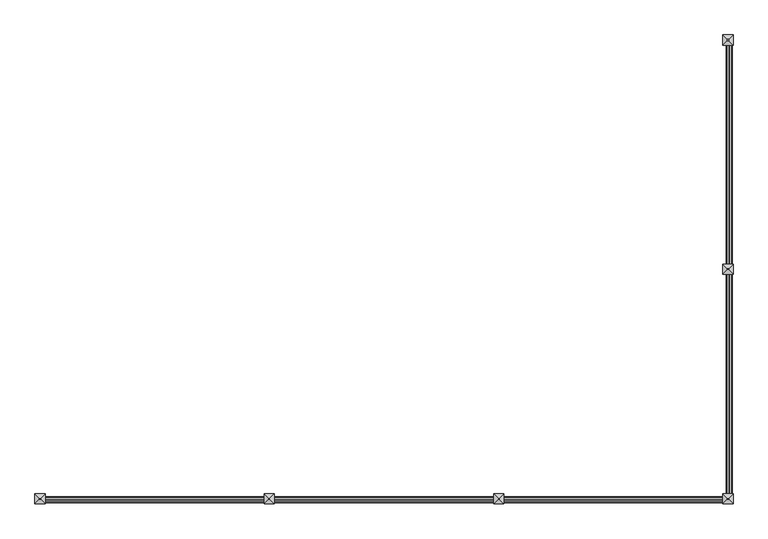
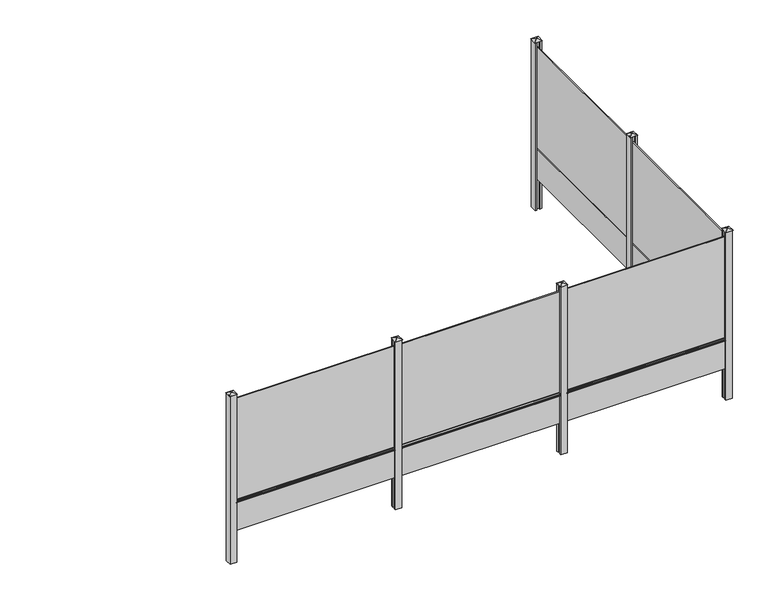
"""IFC4 building model written with IfcOpenShell, lengths in millimetres: railing geometry, Mehat - Railing - Plaque de Soubassement - Classique pour clôture rigide - 251x50x4.3/3.8 cm."""

from ifc_helpers import new_model, si_unit, frame, origin, place, context, project, spatial, polyline, circle_curve, outline, extrude, faceted_brep, source, transform, mapped, element, save
from ifc_brep_helpers import plane_surface, cylinder_surface, advanced_brep


def railing_a1924e57(model_context):
    return source(origin(), model_context, "Body", "SolidModel", [
        extrude(outline(polyline([(193896.2516516, -10817.4943936), (193879.2516516, -10817.4943936), (193879.2516516, -8307.4943936), (193896.2516516, -8307.4943936), (193896.2516516, -10817.4943936)])), frame((0.0, 0.0, 500.0), z_axis=(0.0, 0.0, 1.0), x_axis=(1.0, 0.0, 0.0)), (0.0, 0.0, 1.0), 1650.0),
        advanced_brep(
        [(193906.7516516, -8307.4943936, 0.0), (193868.7516516, -8307.4943936, 0.0), (193866.2516516, -8307.4943936, 500.0), (193909.0334698, -8307.4943936, 500.0), (193906.7516516, -10817.4943936, 0.0), (193909.0334698, -10817.4943936, 500.0), (193866.2516516, -10817.4943936, 500.0), (193868.7516516, -10817.4943936, 0.0), (193909.0334698, -10792.4943936, 500.0), (193909.0334698, -8332.4943936, 500.0), (193908.8503139, -8332.4943936, 459.8662207), (193908.8503139, -10792.4943936, 459.8662207), (193930.8327905, -8332.4943936, 467.1937129), (193930.8327905, -10792.4943936, 467.1937129), (193934.2516516, -8332.4943936, 471.9371294), (193934.2516516, -10792.4943936, 471.9371294), (193934.2516516, -8332.4943936, 488.0628706), (193934.2516516, -10792.4943936, 488.0628706), (193930.8327905, -8332.4943936, 492.8062871), (193930.8327905, -10792.4943936, 492.8062871)],
        [
            (0, 1),
            (1, 2),
            (2, 3),
            (3, 0),
            (4, 5),
            (5, 6),
            (6, 7),
            (7, 4),
            (2, 6),
            (5, 8),
            (8, 9),
            (9, 3),
            (1, 7),
            (0, 4),
            (9, 10),
            (10, 11),
            (11, 8),
            (10, 12),
            (12, 13),
            (13, 11),
            (12, 14, circle_curve(frame((193929.2516516, -8332.4943936, 471.9371294), z_axis=(0.0, -1.0, 0.0), x_axis=(1.0, 0.0, 0.0)), 5.0)),
            (14, 15),
            (15, 13, circle_curve(frame((193929.2516516, -10792.4943936, 471.9371294), z_axis=(0.0, 1.0, 0.0), x_axis=(1.0, 0.0, 0.0)), 5.0)),
            (14, 16),
            (16, 17),
            (17, 15),
            (16, 18, circle_curve(frame((193929.2516516, -8332.4943936, 488.0628706), z_axis=(0.0, -1.0, 0.0), x_axis=(1.0, 0.0, 0.0)), 5.0)),
            (18, 19),
            (19, 17, circle_curve(frame((193929.2516516, -10792.4943936, 488.0628706), z_axis=(0.0, 1.0, 0.0), x_axis=(1.0, 0.0, 0.0)), 5.0)),
            (18, 9),
            (8, 19),
        ],
        [
            plane_surface(frame((193866.2516516, -8307.4943936, 500.0), z_axis=(0.0, 1.0, 0.0), x_axis=(-1.0, 0.0, 0.0))),
            plane_surface(frame((193866.2516516, -10817.4943936, 500.0), z_axis=(0.0, -1.0, 0.0), x_axis=(1.0, 0.0, 0.0))),
            plane_surface(frame((193909.0334698, -8307.4943936, 500.0), z_axis=(0.0, 0.0, 1.0), x_axis=(0.0, -1.0, 0.0))),
            plane_surface(frame((193866.2516516, -8307.4943936, 500.0), z_axis=(-0.9999875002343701, 0.0, -0.004999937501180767), x_axis=(0.0, -1.0, 0.0))),
            plane_surface(frame((193868.7516516, -8307.4943936, 0.0), z_axis=(0.0, 0.0, -1.0), x_axis=(0.0, -1.0, 0.0))),
            plane_surface(frame((193906.7516516, -8307.4943936, 0.0), z_axis=(0.9999895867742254, 0.0, -0.004563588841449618), x_axis=(0.0, -1.0, 0.0))),
            plane_surface(frame((193908.8503139, -8307.4943936, 459.8662207), z_axis=(0.31622776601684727, 0.0, -0.9486832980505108), x_axis=(0.0, -1.0, 0.0))),
            cylinder_surface(frame((193929.2516516, -10817.4943936, 471.9371294), z_axis=(0.0, 1.0, 0.0), x_axis=(1.0, 0.0, 0.0)), 5.0),
            plane_surface(frame((193934.2516516, -8307.4943936, 471.9371294), z_axis=(1.0, 0.0, 0.0), x_axis=(0.0, -1.0, 0.0))),
            cylinder_surface(frame((193929.2516516, -10817.4943936, 488.0628706), z_axis=(0.0, 1.0, 0.0), x_axis=(1.0, 0.0, 0.0)), 5.0),
            plane_surface(frame((193930.8327905, -8307.4943936, 492.8062871), z_axis=(0.3133749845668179, 0.0, 0.9496294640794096), x_axis=(0.0, -1.0, 0.0))),
            plane_surface(frame((193934.2516516, -10792.4943936, 471.9371294), z_axis=(0.0, -1.0, 0.0), x_axis=(0.0, 0.0, 1.0))),
            plane_surface(frame((193934.2516516, -8332.4943936, 471.9371294), z_axis=(0.0, 1.0, 0.0), x_axis=(0.0, 0.0, -1.0))),
        ],
        [
            (0, [[1, 2, 3, 4]]),
            (1, [[5, 6, 7, 8]]),
            (2, [[9, -6, 10, 11, 12, -3]]),
            (3, [[13, -7, -9, -2]]),
            (4, [[14, -8, -13, -1]]),
            (5, [[-4, -12, 15, 16, 17, -10, -5, -14]]),
            (6, [[-16, 18, 19, 20]]),
            (7, [[-19, 21, 22, 23]]),
            (8, [[-22, 24, 25, 26]]),
            (9, [[-25, 27, 28, 29]]),
            (10, [[-28, 30, -11, 31]]),
            (11, [[-20, -23, -26, -29, -31, -17]]),
            (12, [[-30, -27, -24, -21, -18, -15]]),
        ],
    ),
        extrude(outline(polyline([(193937.7516516, -10892.4943936), (193909.2516516, -10892.4943936), (193909.2516516, -10867.4943936), (193866.2516516, -10867.4943936), (193866.2516516, -10892.4943936), (193837.7516516, -10892.4943936), (193837.7516516, -10792.4943936), (193866.2516516, -10792.4943936), (193866.2516516, -10817.4943936), (193909.2516516, -10817.4943936), (193909.2516516, -10792.4943936), (193937.7516516, -10792.4943936), (193937.7516516, -10892.4943936)])), frame((0.0, 0.0, -500.0), z_axis=(0.0, 0.0, 1.0), x_axis=(1.0, 0.0, 0.0)), (0.0, 0.0, 1.0), 2750.0),
        faceted_brep([(193881.3471055, -10836.1443936, 2275.4), (193881.3471055, -10848.8443936, 2275.4), (193894.0471055, -10848.8443936, 2275.4), (193894.0471055, -10836.1443936, 2275.4), (193831.4016516, -10786.1443936, 2250.0), (193944.1016516, -10786.1443936, 2250.0), (193944.1016516, -10898.8443936, 2250.0), (193831.4016516, -10898.8443936, 2250.0)], [[[0, 1, 2, 3]], [[4, 5, 6, 7]], [[4, 0, 3, 5]], [[5, 3, 2, 6]], [[6, 2, 1, 7]], [[7, 1, 0, 4]]]),
        extrude(outline(polyline([(193896.2516516, -13377.4943936), (193879.2516516, -13377.4943936), (193879.2516516, -10867.4943936), (193896.2516516, -10867.4943936), (193896.2516516, -13377.4943936)])), frame((0.0, 0.0, 500.0), z_axis=(0.0, 0.0, 1.0), x_axis=(1.0, 0.0, 0.0)), (0.0, 0.0, 1.0), 1650.0),
        advanced_brep(
        [(193906.7516516, -10867.4943936, 0.0), (193868.7516516, -10867.4943936, 0.0), (193866.2516516, -10867.4943936, 500.0), (193909.0334698, -10867.4943936, 500.0), (193906.7516516, -13377.4943936, 0.0), (193909.0334698, -13377.4943936, 500.0), (193866.2516516, -13377.4943936, 500.0), (193868.7516516, -13377.4943936, 0.0), (193909.0334698, -13352.4943936, 500.0), (193909.0334698, -10892.4943936, 500.0), (193908.8503139, -10892.4943936, 459.8662207), (193908.8503139, -13352.4943936, 459.8662207), (193930.8327905, -10892.4943936, 467.1937129), (193930.8327905, -13352.4943936, 467.1937129), (193934.2516516, -10892.4943936, 471.9371294), (193934.2516516, -13352.4943936, 471.9371294), (193934.2516516, -10892.4943936, 488.0628706), (193934.2516516, -13352.4943936, 488.0628706), (193930.8327905, -10892.4943936, 492.8062871), (193930.8327905, -13352.4943936, 492.8062871)],
        [
            (0, 1),
            (1, 2),
            (2, 3),
            (3, 0),
            (4, 5),
            (5, 6),
            (6, 7),
            (7, 4),
            (2, 6),
            (5, 8),
            (8, 9),
            (9, 3),
            (1, 7),
            (0, 4),
            (9, 10),
            (10, 11),
            (11, 8),
            (10, 12),
            (12, 13),
            (13, 11),
            (12, 14, circle_curve(frame((193929.2516516, -10892.4943936, 471.9371294), z_axis=(0.0, -1.0, 0.0), x_axis=(1.0, 0.0, 0.0)), 5.0)),
            (14, 15),
            (15, 13, circle_curve(frame((193929.2516516, -13352.4943936, 471.9371294), z_axis=(0.0, 1.0, 0.0), x_axis=(1.0, 0.0, 0.0)), 5.0)),
            (14, 16),
            (16, 17),
            (17, 15),
            (16, 18, circle_curve(frame((193929.2516516, -10892.4943936, 488.0628706), z_axis=(0.0, -1.0, 0.0), x_axis=(1.0, 0.0, 0.0)), 5.0)),
            (18, 19),
            (19, 17, circle_curve(frame((193929.2516516, -13352.4943936, 488.0628706), z_axis=(0.0, 1.0, 0.0), x_axis=(1.0, 0.0, 0.0)), 5.0)),
            (18, 9),
            (8, 19),
        ],
        [
            plane_surface(frame((193866.2516516, -10867.4943936, 500.0), z_axis=(0.0, 1.0, 0.0), x_axis=(-1.0, 0.0, 0.0))),
            plane_surface(frame((193866.2516516, -13377.4943936, 500.0), z_axis=(0.0, -1.0, 0.0), x_axis=(1.0, 0.0, 0.0))),
            plane_surface(frame((193909.0334698, -10867.4943936, 500.0), z_axis=(0.0, 0.0, 1.0), x_axis=(0.0, -1.0, 0.0))),
            plane_surface(frame((193866.2516516, -10867.4943936, 500.0), z_axis=(-0.9999875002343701, 0.0, -0.004999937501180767), x_axis=(0.0, -1.0, 0.0))),
            plane_surface(frame((193868.7516516, -10867.4943936, 0.0), z_axis=(0.0, 0.0, -1.0), x_axis=(0.0, -1.0, 0.0))),
            plane_surface(frame((193906.7516516, -10867.4943936, 0.0), z_axis=(0.9999895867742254, 0.0, -0.004563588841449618), x_axis=(0.0, -1.0, 0.0))),
            plane_surface(frame((193908.8503139, -10867.4943936, 459.8662207), z_axis=(0.31622776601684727, 0.0, -0.9486832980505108), x_axis=(0.0, -1.0, 0.0))),
            cylinder_surface(frame((193929.2516516, -13377.4943936, 471.9371294), z_axis=(0.0, 1.0, 0.0), x_axis=(1.0, 0.0, 0.0)), 5.0),
            plane_surface(frame((193934.2516516, -10867.4943936, 471.9371294), z_axis=(1.0, 0.0, 0.0), x_axis=(0.0, -1.0, 0.0))),
            cylinder_surface(frame((193929.2516516, -13377.4943936, 488.0628706), z_axis=(0.0, 1.0, 0.0), x_axis=(1.0, 0.0, 0.0)), 5.0),
            plane_surface(frame((193930.8327905, -10867.4943936, 492.8062871), z_axis=(0.3133749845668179, 0.0, 0.9496294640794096), x_axis=(0.0, -1.0, 0.0))),
            plane_surface(frame((193934.2516516, -13352.4943936, 471.9371294), z_axis=(0.0, -1.0, 0.0), x_axis=(0.0, 0.0, 1.0))),
            plane_surface(frame((193934.2516516, -10892.4943936, 471.9371294), z_axis=(0.0, 1.0, 0.0), x_axis=(0.0, 0.0, -1.0))),
        ],
        [
            (0, [[1, 2, 3, 4]]),
            (1, [[5, 6, 7, 8]]),
            (2, [[9, -6, 10, 11, 12, -3]]),
            (3, [[13, -7, -9, -2]]),
            (4, [[14, -8, -13, -1]]),
            (5, [[-4, -12, 15, 16, 17, -10, -5, -14]]),
            (6, [[-16, 18, 19, 20]]),
            (7, [[-19, 21, 22, 23]]),
            (8, [[-22, 24, 25, 26]]),
            (9, [[-25, 27, 28, 29]]),
            (10, [[-28, 30, -11, 31]]),
            (11, [[-20, -23, -26, -29, -31, -17]]),
            (12, [[-30, -27, -24, -21, -18, -15]]),
        ],
    ),
        extrude(outline(polyline([(191352.7516516, -13410.9943936), (191352.7516516, -13393.9943936), (193862.7516516, -13393.9943936), (193862.7516516, -13410.9943936), (191352.7516516, -13410.9943936)])), frame((0.0, 0.0, 500.0), z_axis=(0.0, 0.0, 1.0), x_axis=(1.0, 0.0, 0.0)), (0.0, 0.0, 1.0), 1650.0),
        advanced_brep(
        [(193862.7516516, -13421.4943936, 0.0), (193862.7516516, -13383.4943936, 0.0), (193862.7516516, -13380.9943936, 500.0), (193862.7516516, -13423.7762118, 500.0), (191352.7516516, -13421.4943936, 0.0), (191352.7516516, -13423.7762118, 500.0), (191352.7516516, -13380.9943936, 500.0), (191352.7516516, -13383.4943936, 0.0), (191377.7516516, -13423.7762118, 500.0), (193837.7516516, -13423.7762118, 500.0), (193837.7516516, -13423.5930558, 459.8662207), (191377.7516516, -13423.5930558, 459.8662207), (193837.7516516, -13445.5755325, 467.1937129), (191377.7516516, -13445.5755325, 467.1937129), (193837.7516516, -13448.9943936, 471.9371294), (191377.7516516, -13448.9943936, 471.9371294), (193837.7516516, -13448.9943936, 488.0628706), (191377.7516516, -13448.9943936, 488.0628706), (193837.7516516, -13445.5755325, 492.8062871), (191377.7516516, -13445.5755325, 492.8062871)],
        [
            (0, 1),
            (1, 2),
            (2, 3),
            (3, 0),
            (4, 5),
            (5, 6),
            (6, 7),
            (7, 4),
            (2, 6),
            (5, 8),
            (8, 9),
            (9, 3),
            (1, 7),
            (0, 4),
            (9, 10),
            (10, 11),
            (11, 8),
            (10, 12),
            (12, 13),
            (13, 11),
            (12, 14, circle_curve(frame((193837.7516516, -13443.9943936, 471.9371294), z_axis=(-1.0, 0.0, 0.0), x_axis=(0.0, -1.0, 0.0)), 5.0)),
            (14, 15),
            (15, 13, circle_curve(frame((191377.7516516, -13443.9943936, 471.9371294), z_axis=(1.0, 0.0, 0.0), x_axis=(0.0, -1.0, 0.0)), 5.0)),
            (14, 16),
            (16, 17),
            (17, 15),
            (16, 18, circle_curve(frame((193837.7516516, -13443.9943936, 488.0628706), z_axis=(-1.0, 0.0, 0.0), x_axis=(0.0, -1.0, 0.0)), 5.0)),
            (18, 19),
            (19, 17, circle_curve(frame((191377.7516516, -13443.9943936, 488.0628706), z_axis=(1.0, 0.0, 0.0), x_axis=(0.0, -1.0, 0.0)), 5.0)),
            (18, 9),
            (8, 19),
        ],
        [
            plane_surface(frame((193862.7516516, -13380.9943936, 500.0), z_axis=(1.0, 0.0, 0.0), x_axis=(0.0, 1.0, 0.0))),
            plane_surface(frame((191352.7516516, -13380.9943936, 500.0), z_axis=(-1.0, 0.0, 0.0), x_axis=(0.0, -1.0, 0.0))),
            plane_surface(frame((193862.7516516, -13423.7762118, 500.0), z_axis=(0.0, 0.0, 1.0), x_axis=(-1.0, 0.0, 0.0))),
            plane_surface(frame((193862.7516516, -13380.9943936, 500.0), z_axis=(0.0, 0.9999875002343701, -0.004999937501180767), x_axis=(-1.0, 0.0, 0.0))),
            plane_surface(frame((193862.7516516, -13383.4943936, 0.0), z_axis=(0.0, 0.0, -1.0), x_axis=(-1.0, 0.0, 0.0))),
            plane_surface(frame((193862.7516516, -13421.4943936, 0.0), z_axis=(0.0, -0.9999895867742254, -0.004563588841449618), x_axis=(-1.0, 0.0, 0.0))),
            plane_surface(frame((193862.7516516, -13423.5930558, 459.8662207), z_axis=(0.0, -0.31622776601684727, -0.9486832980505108), x_axis=(-1.0, 0.0, 0.0))),
            cylinder_surface(frame((191352.7516516, -13443.9943936, 471.9371294), z_axis=(1.0, 0.0, 0.0), x_axis=(0.0, -1.0, 0.0)), 5.0),
            plane_surface(frame((193862.7516516, -13448.9943936, 471.9371294), z_axis=(0.0, -1.0, 0.0), x_axis=(-1.0, 0.0, 0.0))),
            cylinder_surface(frame((191352.7516516, -13443.9943936, 488.0628706), z_axis=(1.0, 0.0, 0.0), x_axis=(0.0, -1.0, 0.0)), 5.0),
            plane_surface(frame((193862.7516516, -13445.5755325, 492.8062871), z_axis=(0.0, -0.3133749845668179, 0.9496294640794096), x_axis=(-1.0, 0.0, 0.0))),
            plane_surface(frame((191377.7516516, -13448.9943936, 471.9371294), z_axis=(-1.0, 0.0, 0.0), x_axis=(0.0, 0.0, 1.0))),
            plane_surface(frame((193837.7516516, -13448.9943936, 471.9371294), z_axis=(1.0, 0.0, 0.0), x_axis=(0.0, 0.0, -1.0))),
        ],
        [
            (0, [[1, 2, 3, 4]]),
            (1, [[5, 6, 7, 8]]),
            (2, [[9, -6, 10, 11, 12, -3]]),
            (3, [[13, -7, -9, -2]]),
            (4, [[14, -8, -13, -1]]),
            (5, [[-4, -12, 15, 16, 17, -10, -5, -14]]),
            (6, [[-16, 18, 19, 20]]),
            (7, [[-19, 21, 22, 23]]),
            (8, [[-22, 24, 25, 26]]),
            (9, [[-25, 27, 28, 29]]),
            (10, [[-28, 30, -11, 31]]),
            (11, [[-20, -23, -26, -29, -31, -17]]),
            (12, [[-30, -27, -24, -21, -18, -15]]),
        ],
    ),
        extrude(outline(polyline([(191277.7516516, -13452.4943936), (191277.7516516, -13423.9943936), (191302.7516516, -13423.9943936), (191302.7516516, -13380.9943936), (191277.7516516, -13380.9943936), (191277.7516516, -13352.4943936), (191377.7516516, -13352.4943936), (191377.7516516, -13380.9943936), (191352.7516516, -13380.9943936), (191352.7516516, -13423.9943936), (191377.7516516, -13423.9943936), (191377.7516516, -13452.4943936), (191277.7516516, -13452.4943936)])), frame((0.0, 0.0, -500.0), z_axis=(0.0, 0.0, 1.0), x_axis=(1.0, 0.0, 0.0)), (0.0, 0.0, 1.0), 2750.0),
        faceted_brep([(191334.1016516, -13396.0898475, 2275.4), (191321.4016516, -13396.0898475, 2275.4), (191321.4016516, -13408.7898475, 2275.4), (191334.1016516, -13408.7898475, 2275.4), (191384.1016516, -13346.1443936, 2250.0), (191384.1016516, -13458.8443936, 2250.0), (191271.4016516, -13458.8443936, 2250.0), (191271.4016516, -13346.1443936, 2250.0)], [[[0, 1, 2, 3]], [[4, 5, 6, 7]], [[4, 0, 3, 5]], [[5, 3, 2, 6]], [[6, 2, 1, 7]], [[7, 1, 0, 4]]]),
        extrude(outline(polyline([(188792.7516516, -13410.9943936), (188792.7516516, -13393.9943936), (191302.7516516, -13393.9943936), (191302.7516516, -13410.9943936), (188792.7516516, -13410.9943936)])), frame((0.0, 0.0, 500.0), z_axis=(0.0, 0.0, 1.0), x_axis=(1.0, 0.0, 0.0)), (0.0, 0.0, 1.0), 1650.0),
        advanced_brep(
        [(191302.7516516, -13421.4943936, 0.0), (191302.7516516, -13383.4943936, 0.0), (191302.7516516, -13380.9943936, 500.0), (191302.7516516, -13423.7762118, 500.0), (188792.7516516, -13421.4943936, 0.0), (188792.7516516, -13423.7762118, 500.0), (188792.7516516, -13380.9943936, 500.0), (188792.7516516, -13383.4943936, 0.0), (188817.7516516, -13423.7762118, 500.0), (191277.7516516, -13423.7762118, 500.0), (191277.7516516, -13423.5930558, 459.8662207), (188817.7516516, -13423.5930558, 459.8662207), (191277.7516516, -13445.5755325, 467.1937129), (188817.7516516, -13445.5755325, 467.1937129), (191277.7516516, -13448.9943936, 471.9371294), (188817.7516516, -13448.9943936, 471.9371294), (191277.7516516, -13448.9943936, 488.0628706), (188817.7516516, -13448.9943936, 488.0628706), (191277.7516516, -13445.5755325, 492.8062871), (188817.7516516, -13445.5755325, 492.8062871)],
        [
            (0, 1),
            (1, 2),
            (2, 3),
            (3, 0),
            (4, 5),
            (5, 6),
            (6, 7),
            (7, 4),
            (2, 6),
            (5, 8),
            (8, 9),
            (9, 3),
            (1, 7),
            (0, 4),
            (9, 10),
            (10, 11),
            (11, 8),
            (10, 12),
            (12, 13),
            (13, 11),
            (12, 14, circle_curve(frame((191277.7516516, -13443.9943936, 471.9371294), z_axis=(-1.0, 0.0, 0.0), x_axis=(0.0, -1.0, 0.0)), 5.0)),
            (14, 15),
            (15, 13, circle_curve(frame((188817.7516516, -13443.9943936, 471.9371294), z_axis=(1.0, 0.0, 0.0), x_axis=(0.0, -1.0, 0.0)), 5.0)),
            (14, 16),
            (16, 17),
            (17, 15),
            (16, 18, circle_curve(frame((191277.7516516, -13443.9943936, 488.0628706), z_axis=(-1.0, 0.0, 0.0), x_axis=(0.0, -1.0, 0.0)), 5.0)),
            (18, 19),
            (19, 17, circle_curve(frame((188817.7516516, -13443.9943936, 488.0628706), z_axis=(1.0, 0.0, 0.0), x_axis=(0.0, -1.0, 0.0)), 5.0)),
            (18, 9),
            (8, 19),
        ],
        [
            plane_surface(frame((191302.7516516, -13380.9943936, 500.0), z_axis=(1.0, 0.0, 0.0), x_axis=(0.0, 1.0, 0.0))),
            plane_surface(frame((188792.7516516, -13380.9943936, 500.0), z_axis=(-1.0, 0.0, 0.0), x_axis=(0.0, -1.0, 0.0))),
            plane_surface(frame((191302.7516516, -13423.7762118, 500.0), z_axis=(0.0, 0.0, 1.0), x_axis=(-1.0, 0.0, 0.0))),
            plane_surface(frame((191302.7516516, -13380.9943936, 500.0), z_axis=(0.0, 0.9999875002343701, -0.004999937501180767), x_axis=(-1.0, 0.0, 0.0))),
            plane_surface(frame((191302.7516516, -13383.4943936, 0.0), z_axis=(0.0, 0.0, -1.0), x_axis=(-1.0, 0.0, 0.0))),
            plane_surface(frame((191302.7516516, -13421.4943936, 0.0), z_axis=(0.0, -0.9999895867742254, -0.004563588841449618), x_axis=(-1.0, 0.0, 0.0))),
            plane_surface(frame((191302.7516516, -13423.5930558, 459.8662207), z_axis=(0.0, -0.31622776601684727, -0.9486832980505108), x_axis=(-1.0, 0.0, 0.0))),
            cylinder_surface(frame((188792.7516516, -13443.9943936, 471.9371294), z_axis=(1.0, 0.0, 0.0), x_axis=(0.0, -1.0, 0.0)), 5.0),
            plane_surface(frame((191302.7516516, -13448.9943936, 471.9371294), z_axis=(0.0, -1.0, 0.0), x_axis=(-1.0, 0.0, 0.0))),
            cylinder_surface(frame((188792.7516516, -13443.9943936, 488.0628706), z_axis=(1.0, 0.0, 0.0), x_axis=(0.0, -1.0, 0.0)), 5.0),
            plane_surface(frame((191302.7516516, -13445.5755325, 492.8062871), z_axis=(0.0, -0.3133749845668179, 0.9496294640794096), x_axis=(-1.0, 0.0, 0.0))),
            plane_surface(frame((188817.7516516, -13448.9943936, 471.9371294), z_axis=(-1.0, 0.0, 0.0), x_axis=(0.0, 0.0, 1.0))),
            plane_surface(frame((191277.7516516, -13448.9943936, 471.9371294), z_axis=(1.0, 0.0, 0.0), x_axis=(0.0, 0.0, -1.0))),
        ],
        [
            (0, [[1, 2, 3, 4]]),
            (1, [[5, 6, 7, 8]]),
            (2, [[9, -6, 10, 11, 12, -3]]),
            (3, [[13, -7, -9, -2]]),
            (4, [[14, -8, -13, -1]]),
            (5, [[-4, -12, 15, 16, 17, -10, -5, -14]]),
            (6, [[-16, 18, 19, 20]]),
            (7, [[-19, 21, 22, 23]]),
            (8, [[-22, 24, 25, 26]]),
            (9, [[-25, 27, 28, 29]]),
            (10, [[-28, 30, -11, 31]]),
            (11, [[-20, -23, -26, -29, -31, -17]]),
            (12, [[-30, -27, -24, -21, -18, -15]]),
        ],
    ),
        extrude(outline(polyline([(188717.7516516, -13452.4943936), (188717.7516516, -13423.9943936), (188742.7516516, -13423.9943936), (188742.7516516, -13380.9943936), (188717.7516516, -13380.9943936), (188717.7516516, -13352.4943936), (188817.7516516, -13352.4943936), (188817.7516516, -13380.9943936), (188792.7516516, -13380.9943936), (188792.7516516, -13423.9943936), (188817.7516516, -13423.9943936), (188817.7516516, -13452.4943936), (188717.7516516, -13452.4943936)])), frame((0.0, 0.0, -500.0), z_axis=(0.0, 0.0, 1.0), x_axis=(1.0, 0.0, 0.0)), (0.0, 0.0, 1.0), 2750.0),
        faceted_brep([(188774.1016516, -13396.0898475, 2275.4), (188761.4016516, -13396.0898475, 2275.4), (188761.4016516, -13408.7898475, 2275.4), (188774.1016516, -13408.7898475, 2275.4), (188824.1016516, -13346.1443936, 2250.0), (188824.1016516, -13458.8443936, 2250.0), (188711.4016516, -13458.8443936, 2250.0), (188711.4016516, -13346.1443936, 2250.0)], [[[0, 1, 2, 3]], [[4, 5, 6, 7]], [[4, 0, 3, 5]], [[5, 3, 2, 6]], [[6, 2, 1, 7]], [[7, 1, 0, 4]]]),
        extrude(outline(polyline([(186232.7516516, -13410.9943936), (186232.7516516, -13393.9943936), (188742.7516516, -13393.9943936), (188742.7516516, -13410.9943936), (186232.7516516, -13410.9943936)])), frame((0.0, 0.0, 500.0), z_axis=(0.0, 0.0, 1.0), x_axis=(1.0, 0.0, 0.0)), (0.0, 0.0, 1.0), 1650.0),
        advanced_brep(
        [(188742.7516516, -13421.4943936, 0.0), (188742.7516516, -13383.4943936, 0.0), (188742.7516516, -13380.9943936, 500.0), (188742.7516516, -13423.7762118, 500.0), (186232.7516516, -13421.4943936, 0.0), (186232.7516516, -13423.7762118, 500.0), (186232.7516516, -13380.9943936, 500.0), (186232.7516516, -13383.4943936, 0.0), (186257.7516516, -13423.7762118, 500.0), (188717.7516516, -13423.7762118, 500.0), (188717.7516516, -13423.5930558, 459.8662207), (186257.7516516, -13423.5930558, 459.8662207), (188717.7516516, -13445.5755325, 467.1937129), (186257.7516516, -13445.5755325, 467.1937129), (188717.7516516, -13448.9943936, 471.9371294), (186257.7516516, -13448.9943936, 471.9371294), (188717.7516516, -13448.9943936, 488.0628706), (186257.7516516, -13448.9943936, 488.0628706), (188717.7516516, -13445.5755325, 492.8062871), (186257.7516516, -13445.5755325, 492.8062871)],
        [
            (0, 1),
            (1, 2),
            (2, 3),
            (3, 0),
            (4, 5),
            (5, 6),
            (6, 7),
            (7, 4),
            (2, 6),
            (5, 8),
            (8, 9),
            (9, 3),
            (1, 7),
            (0, 4),
            (9, 10),
            (10, 11),
            (11, 8),
            (10, 12),
            (12, 13),
            (13, 11),
            (12, 14, circle_curve(frame((188717.7516516, -13443.9943936, 471.9371294), z_axis=(-1.0, 0.0, 0.0), x_axis=(0.0, -1.0, 0.0)), 5.0)),
            (14, 15),
            (15, 13, circle_curve(frame((186257.7516516, -13443.9943936, 471.9371294), z_axis=(1.0, 0.0, 0.0), x_axis=(0.0, -1.0, 0.0)), 5.0)),
            (14, 16),
            (16, 17),
            (17, 15),
            (16, 18, circle_curve(frame((188717.7516516, -13443.9943936, 488.0628706), z_axis=(-1.0, 0.0, 0.0), x_axis=(0.0, -1.0, 0.0)), 5.0)),
            (18, 19),
            (19, 17, circle_curve(frame((186257.7516516, -13443.9943936, 488.0628706), z_axis=(1.0, 0.0, 0.0), x_axis=(0.0, -1.0, 0.0)), 5.0)),
            (18, 9),
            (8, 19),
        ],
        [
            plane_surface(frame((188742.7516516, -13380.9943936, 500.0), z_axis=(1.0, 0.0, 0.0), x_axis=(0.0, 1.0, 0.0))),
            plane_surface(frame((186232.7516516, -13380.9943936, 500.0), z_axis=(-1.0, 0.0, 0.0), x_axis=(0.0, -1.0, 0.0))),
            plane_surface(frame((188742.7516516, -13423.7762118, 500.0), z_axis=(0.0, 0.0, 1.0), x_axis=(-1.0, 0.0, 0.0))),
            plane_surface(frame((188742.7516516, -13380.9943936, 500.0), z_axis=(0.0, 0.9999875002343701, -0.004999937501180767), x_axis=(-1.0, 0.0, 0.0))),
            plane_surface(frame((188742.7516516, -13383.4943936, 0.0), z_axis=(0.0, 0.0, -1.0), x_axis=(-1.0, 0.0, 0.0))),
            plane_surface(frame((188742.7516516, -13421.4943936, 0.0), z_axis=(0.0, -0.9999895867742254, -0.004563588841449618), x_axis=(-1.0, 0.0, 0.0))),
            plane_surface(frame((188742.7516516, -13423.5930558, 459.8662207), z_axis=(0.0, -0.31622776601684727, -0.9486832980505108), x_axis=(-1.0, 0.0, 0.0))),
            cylinder_surface(frame((186232.7516516, -13443.9943936, 471.9371294), z_axis=(1.0, 0.0, 0.0), x_axis=(0.0, -1.0, 0.0)), 5.0),
            plane_surface(frame((188742.7516516, -13448.9943936, 471.9371294), z_axis=(0.0, -1.0, 0.0), x_axis=(-1.0, 0.0, 0.0))),
            cylinder_surface(frame((186232.7516516, -13443.9943936, 488.0628706), z_axis=(1.0, 0.0, 0.0), x_axis=(0.0, -1.0, 0.0)), 5.0),
            plane_surface(frame((188742.7516516, -13445.5755325, 492.8062871), z_axis=(0.0, -0.3133749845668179, 0.9496294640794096), x_axis=(-1.0, 0.0, 0.0))),
            plane_surface(frame((186257.7516516, -13448.9943936, 471.9371294), z_axis=(-1.0, 0.0, 0.0), x_axis=(0.0, 0.0, 1.0))),
            plane_surface(frame((188717.7516516, -13448.9943936, 471.9371294), z_axis=(1.0, 0.0, 0.0), x_axis=(0.0, 0.0, -1.0))),
        ],
        [
            (0, [[1, 2, 3, 4]]),
            (1, [[5, 6, 7, 8]]),
            (2, [[9, -6, 10, 11, 12, -3]]),
            (3, [[13, -7, -9, -2]]),
            (4, [[14, -8, -13, -1]]),
            (5, [[-4, -12, 15, 16, 17, -10, -5, -14]]),
            (6, [[-16, 18, 19, 20]]),
            (7, [[-19, 21, 22, 23]]),
            (8, [[-22, 24, 25, 26]]),
            (9, [[-25, 27, 28, 29]]),
            (10, [[-28, 30, -11, 31]]),
            (11, [[-20, -23, -26, -29, -31, -17]]),
            (12, [[-30, -27, -24, -21, -18, -15]]),
        ],
    ),
        extrude(outline(polyline([(193837.7516516, -13452.4943936), (193837.7516516, -13423.9943936), (193862.7516516, -13423.9943936), (193862.7516516, -13380.9943936), (193837.7516516, -13380.9943936), (193837.7516516, -13352.4943936), (193866.2516516, -13352.4943936), (193866.2516516, -13377.4943936), (193909.2516516, -13377.4943936), (193909.2516516, -13352.4943936), (193937.7516516, -13352.4943936), (193937.7516516, -13452.4943936), (193837.7516516, -13452.4943936)])), frame((0.0, 0.0, -500.0), z_axis=(0.0, 0.0, 1.0), x_axis=(1.0, 0.0, 0.0)), (0.0, 0.0, 1.0), 2750.0),
        faceted_brep([(193894.1016516, -13396.0898475, 2275.4), (193881.4016516, -13396.0898475, 2275.4), (193881.4016516, -13408.7898475, 2275.4), (193894.1016516, -13408.7898475, 2275.4), (193944.1016516, -13346.1443936, 2250.0), (193944.1016516, -13458.8443936, 2250.0), (193831.4016516, -13458.8443936, 2250.0), (193831.4016516, -13346.1443936, 2250.0)], [[[0, 1, 2, 3]], [[4, 5, 6, 7]], [[4, 0, 3, 5]], [[5, 3, 2, 6]], [[6, 2, 1, 7]], [[7, 1, 0, 4]]]),
        extrude(outline(polyline([(193937.7516516, -8332.4943936), (193909.2516516, -8332.4943936), (193909.2516516, -8307.4943936), (193866.2516516, -8307.4943936), (193866.2516516, -8332.4943936), (193837.7516516, -8332.4943936), (193837.7516516, -8232.4943936), (193937.7516516, -8232.4943936), (193937.7516516, -8332.4943936)])), frame((0.0, 0.0, -500.0), z_axis=(0.0, 0.0, 1.0), x_axis=(1.0, 0.0, 0.0)), (0.0, 0.0, 1.0), 2750.0),
        faceted_brep([(193881.3471055, -8276.1443936, 2275.4), (193881.3471055, -8288.8443936, 2275.4), (193894.0471055, -8288.8443936, 2275.4), (193894.0471055, -8276.1443936, 2275.4), (193831.4016516, -8226.1443936, 2250.0), (193944.1016516, -8226.1443936, 2250.0), (193944.1016516, -8338.8443936, 2250.0), (193831.4016516, -8338.8443936, 2250.0)], [[[0, 1, 2, 3]], [[4, 5, 6, 7]], [[4, 0, 3, 5]], [[5, 3, 2, 6]], [[6, 2, 1, 7]], [[7, 1, 0, 4]]]),
        extrude(outline(polyline([(186157.7516516, -13452.4943936), (186157.7516516, -13352.4943936), (186257.7516516, -13352.4943936), (186257.7516516, -13380.9943936), (186232.7516516, -13380.9943936), (186232.7516516, -13423.9943936), (186257.7516516, -13423.9943936), (186257.7516516, -13452.4943936), (186157.7516516, -13452.4943936)])), frame((0.0, 0.0, -500.0), z_axis=(0.0, 0.0, 1.0), x_axis=(1.0, 0.0, 0.0)), (0.0, 0.0, 1.0), 2750.0),
        faceted_brep([(186214.1016516, -13396.0898475, 2275.4), (186201.4016516, -13396.0898475, 2275.4), (186201.4016516, -13408.7898475, 2275.4), (186214.1016516, -13408.7898475, 2275.4), (186264.1016516, -13346.1443936, 2250.0), (186264.1016516, -13458.8443936, 2250.0), (186151.4016516, -13458.8443936, 2250.0), (186151.4016516, -13346.1443936, 2250.0)], [[[0, 1, 2, 3]], [[4, 5, 6, 7]], [[4, 0, 3, 5]], [[5, 3, 2, 6]], [[6, 2, 1, 7]], [[7, 1, 0, 4]]]),
    ])


if __name__ == "__main__":
    model = new_model("IFC4")
    model_context = context("Model", 3, world=origin())
    ifc_project = project(units=[si_unit("LENGTHUNIT", "METRE", prefix="MILLI")], contexts=[model_context])
    site = spatial("IfcSite", under=ifc_project)
    building = spatial("IfcBuilding", under=site)
    placement = place(None, origin())
    railing_shape = railing_a1924e57(model_context)
    element("IfcRailing", 1, ObjectType="Mehat - Railing - Plaque de Soubassement - Classique pour clôture rigide - 251x50x4.3/3.8 cm", at=placement, inside=building, context=model_context, shape_type="MappedRepresentation", body=[
        mapped(railing_shape, transform((0.0, 0.0, 0.0), x_axis=(1.0, 0.0, 0.0), y_axis=(0.0, 1.0, 0.0), z_axis=(0.0, 0.0, 1.0))),
    ])
    save(model, "model.ifc")
